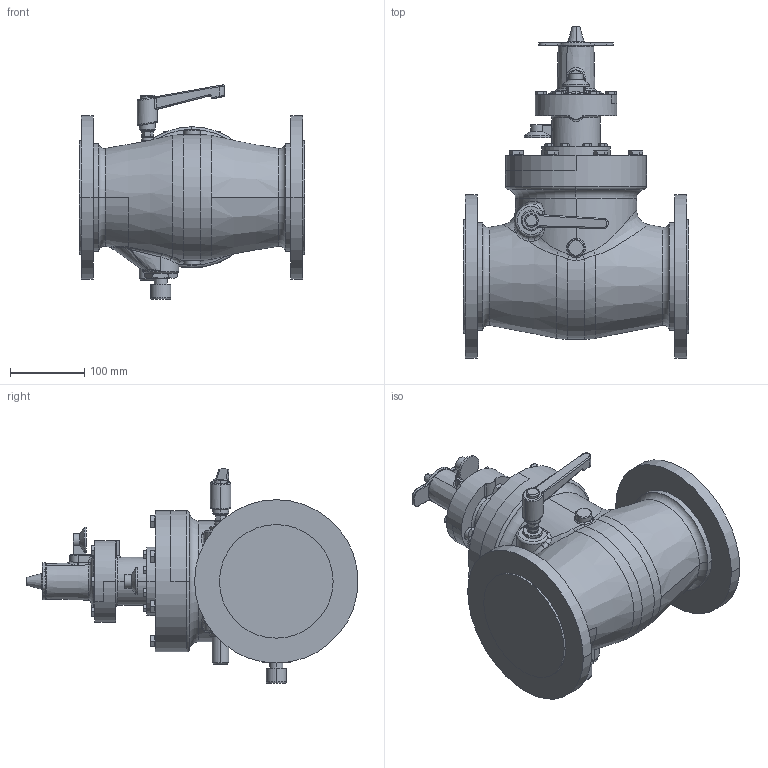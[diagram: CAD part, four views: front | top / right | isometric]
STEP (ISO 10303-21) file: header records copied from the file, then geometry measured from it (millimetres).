
FILE_DESCRIPTION((''),'2;1');
FILE_NAME('226059_ASM_GIPS_4-PN16_SW0001','2018-12-19T',('jjunior'),(''),'PRO/ENGINEER BY PARAMETRIC TECHNOLOGY CORPORATION, 2010160','PRO/ENGINEER BY PARAMETRIC TECHNOLOGY CORPORATION, 2010160','');
FILE_SCHEMA(('CONFIG_CONTROL_DESIGN'));
Length unit declared in the file: millimetre
Products named in the file (1): 226059_ASM_GIPS_4-PN16_SW0001
Bounding box: 304 x 447 x 288.43 mm (x, y, z)
Volume: 9378441 mm3; surface area: 442734.6 mm2
Topology: 2 solids, 5 shells, 1126 faces, 2764 edges, 1717 vertices
Faces by surface type: plane 592, cone 210, cylinder 159, bspline 90, torus 65, sphere 10
Entity records: 43626 total; most frequent: CARTESIAN_POINT 18094, ORIENTED_EDGE 5516, DIRECTION 4946, EDGE_CURVE 2758, AXIS2_PLACEMENT_3D 1728, VERTEX_POINT 1715, VECTOR 1490, LINE 1490
